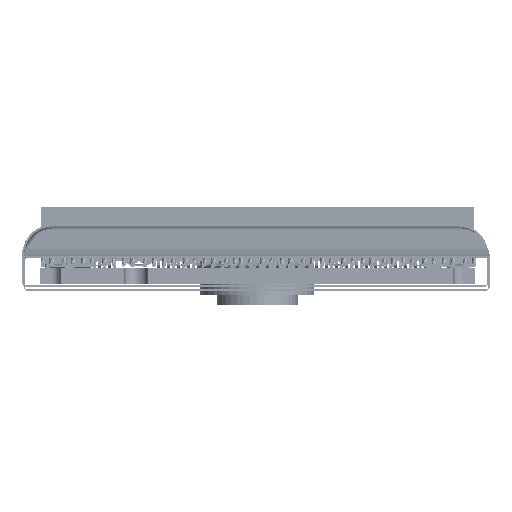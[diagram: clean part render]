
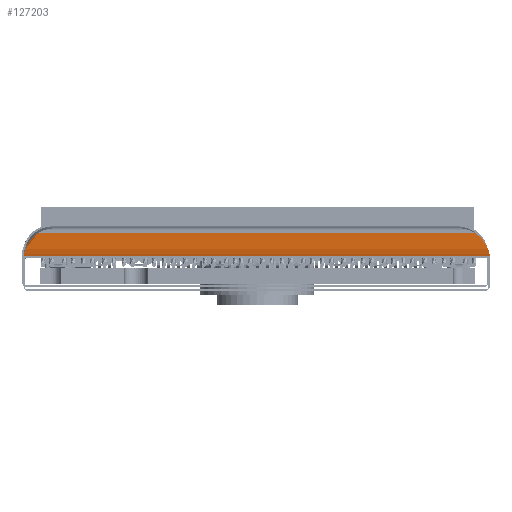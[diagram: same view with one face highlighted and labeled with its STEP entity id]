
A CAD part, front view. The second image highlights one B-rep face of the part: STEP entity #127203.
In plain terms, the highlighted free-form (B-spline) face has degree [3, 1] with [4, 2] control points.
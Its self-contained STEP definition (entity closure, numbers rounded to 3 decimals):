
#127087 = VERTEX_POINT('',#127088);
#127088 = CARTESIAN_POINT('',(23.586,0.,
    0.201));
#127095 = EDGE_CURVE('',#127087,#127096,#127098,.T.);
#127096 = VERTEX_POINT('',#127097);
#127097 = CARTESIAN_POINT('',(0.013,0.,
    0.201));
#127098 = LINE('',#127099,#127100);
#127099 = CARTESIAN_POINT('',(24.829,0.,
    0.201));
#127100 = VECTOR('',#127101,1.);
#127101 = DIRECTION('',(-1.,-0.,-0.));
#127157 = EDGE_CURVE('',#127158,#127160,#127162,.T.);
#127158 = VERTEX_POINT('',#127159);
#127159 = CARTESIAN_POINT('',(22.872,5.989,
    1.34));
#127160 = VERTEX_POINT('',#127161);
#127161 = CARTESIAN_POINT('',(0.727,5.989,
    1.34));
#127162 = LINE('',#127163,#127164);
#127163 = CARTESIAN_POINT('',(24.829,5.989,
    1.34));
#127164 = VECTOR('',#127165,1.);
#127165 = DIRECTION('',(-1.,-0.,-0.));
#127203 = ADVANCED_FACE('',(#127204),#127238,.F.);
#127204 = FACE_BOUND('',#127205,.F.);
#127205 = EDGE_LOOP('',(#127206,#127207,#127222,#127223));
#127206 = ORIENTED_EDGE('',*,*,#127095,.T.);
#127207 = ORIENTED_EDGE('',*,*,#127208,.F.);
#127208 = EDGE_CURVE('',#127160,#127096,#127209,.T.);
#127209 = B_SPLINE_CURVE_WITH_KNOTS('',3,(#127210,#127211,#127212,
    #127213,#127214,#127215,#127216,#127217,#127218,#127219,#127220,
    #127221),.UNSPECIFIED.,.F.,.F.,(4,2,2,2,2,4),(0.,0.001,
    0.002,0.003,0.005,
    0.006),.UNSPECIFIED.);
#127210 = CARTESIAN_POINT('',(0.727,5.989,
    1.34));
#127211 = CARTESIAN_POINT('',(0.601,5.774,
    1.259));
#127212 = CARTESIAN_POINT('',(0.511,5.546,
    1.177));
#127213 = CARTESIAN_POINT('',(0.363,5.077,
    1.02));
#127214 = CARTESIAN_POINT('',(0.306,4.834,
    0.944));
#127215 = CARTESIAN_POINT('',(0.168,4.099,
    0.732));
#127216 = CARTESIAN_POINT('',(0.118,3.598,
    0.611));
#127217 = CARTESIAN_POINT('',(0.051,2.582,
    0.413));
#127218 = CARTESIAN_POINT('',(0.035,2.069,
    0.338));
#127219 = CARTESIAN_POINT('',(0.016,1.037,
    0.233));
#127220 = CARTESIAN_POINT('',(0.013,0.519,
    0.205));
#127221 = CARTESIAN_POINT('',(0.013,0.,
    0.201));
#127222 = ORIENTED_EDGE('',*,*,#127157,.F.);
#127223 = ORIENTED_EDGE('',*,*,#127224,.T.);
#127224 = EDGE_CURVE('',#127158,#127087,#127225,.T.);
#127225 = B_SPLINE_CURVE_WITH_KNOTS('',3,(#127226,#127227,#127228,
    #127229,#127230,#127231,#127232,#127233,#127234,#127235,#127236,
    #127237),.UNSPECIFIED.,.F.,.F.,(4,2,2,2,2,4),(0.,0.001,
    0.002,0.003,0.005,
    0.006),.UNSPECIFIED.);
#127226 = CARTESIAN_POINT('',(22.872,5.989,
    1.34));
#127227 = CARTESIAN_POINT('',(22.997,5.774,
    1.259));
#127228 = CARTESIAN_POINT('',(23.088,5.546,
    1.177));
#127229 = CARTESIAN_POINT('',(23.236,5.077,
    1.02));
#127230 = CARTESIAN_POINT('',(23.293,4.834,
    0.944));
#127231 = CARTESIAN_POINT('',(23.431,4.099,
    0.732));
#127232 = CARTESIAN_POINT('',(23.481,3.598,
    0.611));
#127233 = CARTESIAN_POINT('',(23.548,2.582,
    0.413));
#127234 = CARTESIAN_POINT('',(23.564,2.069,
    0.338));
#127235 = CARTESIAN_POINT('',(23.583,1.037,
    0.233));
#127236 = CARTESIAN_POINT('',(23.586,0.519,
    0.205));
#127237 = CARTESIAN_POINT('',(23.586,0.,
    0.201));
#127238 = B_SPLINE_SURFACE_WITH_KNOTS('',3,1,(
    (#127239,#127240)
    ,(#127241,#127242)
    ,(#127243,#127244)
    ,(#127245,#127246
    )),.UNSPECIFIED.,.F.,.F.,.F.,(4,4),(2,2),(0.095,
    0.957),(0.,1.),.PIECEWISE_BEZIER_KNOTS.);
#127239 = CARTESIAN_POINT('',(23.728,5.989,
    1.34));
#127240 = CARTESIAN_POINT('',(-0.129,5.989,
    1.34));
#127241 = CARTESIAN_POINT('',(23.728,4.031,
    0.599));
#127242 = CARTESIAN_POINT('',(-0.129,4.031,
    0.599));
#127243 = CARTESIAN_POINT('',(23.728,2.031,
    0.219));
#127244 = CARTESIAN_POINT('',(-0.129,2.031,
    0.219));
#127245 = CARTESIAN_POINT('',(23.728,0.,
    0.201));
#127246 = CARTESIAN_POINT('',(-0.129,0.,
    0.201));
